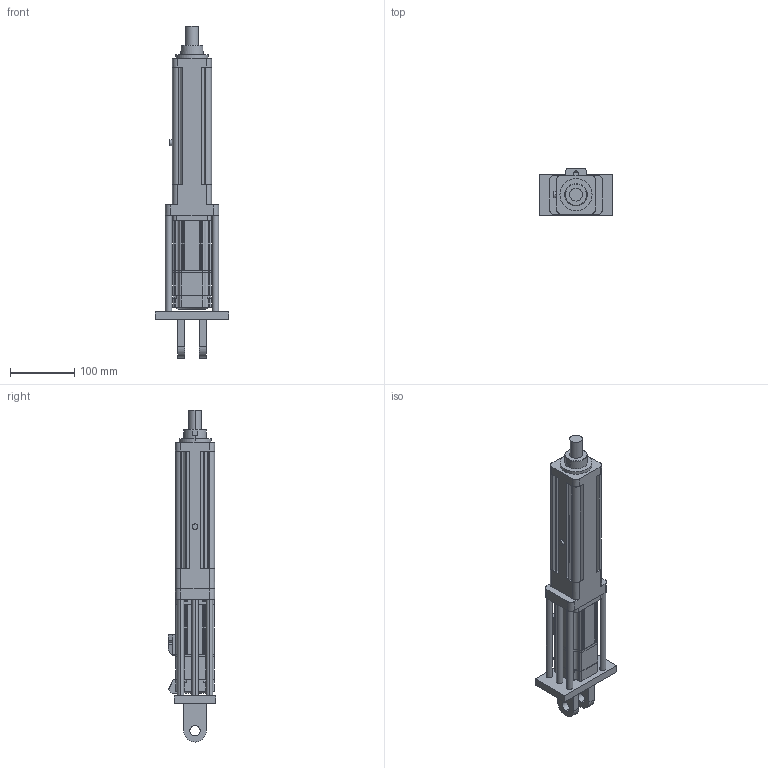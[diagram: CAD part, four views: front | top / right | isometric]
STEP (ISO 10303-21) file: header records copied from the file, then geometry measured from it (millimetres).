
FILE_DESCRIPTION (( 'STEP AP203' ), '1' );
FILE_NAME ('S2眻盄綴帣蝓假蚾.STEP', '2024-05-27T05:14:47', ( '' ), ( '' ), 'SwSTEP 2.0', 'SolidWorks 2018', '' );
FILE_SCHEMA (( 'CONFIG_CONTROL_DESIGN' ));
Length unit declared in the file: millimetre
Products named in the file (3): S2眻盄綴帣蝓; S2眻盄綴帣蝓假蚾; 陓豎400W 湍价陬
Assembly tree (2 placements, depth 2):
  S2眻盄綴帣蝓假蚾
    S2眻盄綴帣蝓
    陓豎400W 湍价陬
Bounding box: 115 x 74.5 x 518 mm (x, y, z)
Volume: 691787 mm3; surface area: 275917.7 mm2
Topology: 1 solids, 29 shells, 763 faces, 2174 edges, 1473 vertices
Faces by surface type: plane 378, cylinder 366, cone 11, torus 8
Entity records: 25328 total; most frequent: DIRECTION 4592, CARTESIAN_POINT 4532, ORIENTED_EDGE 3852, EDGE_CURVE 2174, AXIS2_PLACEMENT_3D 1669, VERTEX_POINT 1473, VECTOR 1254, LINE 1254
